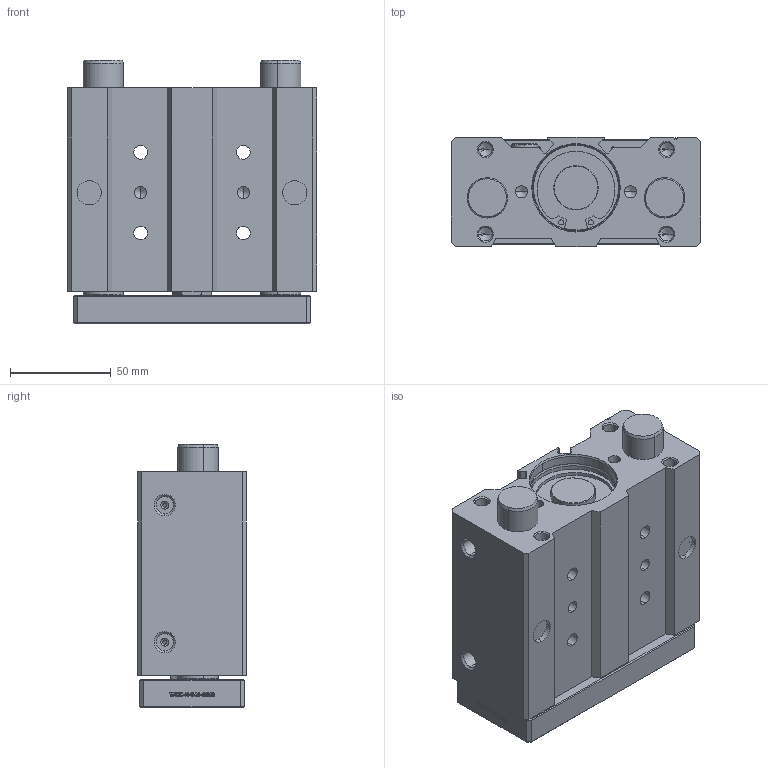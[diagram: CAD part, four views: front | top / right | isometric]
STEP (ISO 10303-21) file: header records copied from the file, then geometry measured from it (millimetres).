
FILE_DESCRIPTION (( 'STEP AP214' ), '1' );
FILE_NAME ('WGC-B-040-0050 (3D).STEP', '2022-02-28T10:32:16', ( '' ), ( '' ), 'SwSTEP 2.0', 'SolidWorks 2016', '' );
FILE_SCHEMA (( 'AUTOMOTIVE_DESIGN' ));
Length unit declared in the file: millimetre
Products named in the file (3): Group2^WGC-B-040-0050 (3D); WGC-B-040-0050 (3D); Group1^WGC-B-040-0050 (3D)
Assembly tree (2 placements, depth 2):
  WGC-B-040-0050 (3D)
    Group1^WGC-B-040-0050 (3D)
    Group2^WGC-B-040-0050 (3D)
Bounding box: 124 x 54 x 131 mm (x, y, z)
Volume: 622200 mm3; surface area: 138508.8 mm2
Topology: 17 solids, 17 shells, 1127 faces, 2819 edges, 1798 vertices
Faces by surface type: plane 595, cylinder 213, cone 166, bspline 153
Entity records: 43623 total; most frequent: CARTESIAN_POINT 15057, ORIENTED_EDGE 5574, DIRECTION 5025, EDGE_CURVE 2787, LINE 1815, VECTOR 1815, VERTEX_POINT 1798, AXIS2_PLACEMENT_3D 1605
